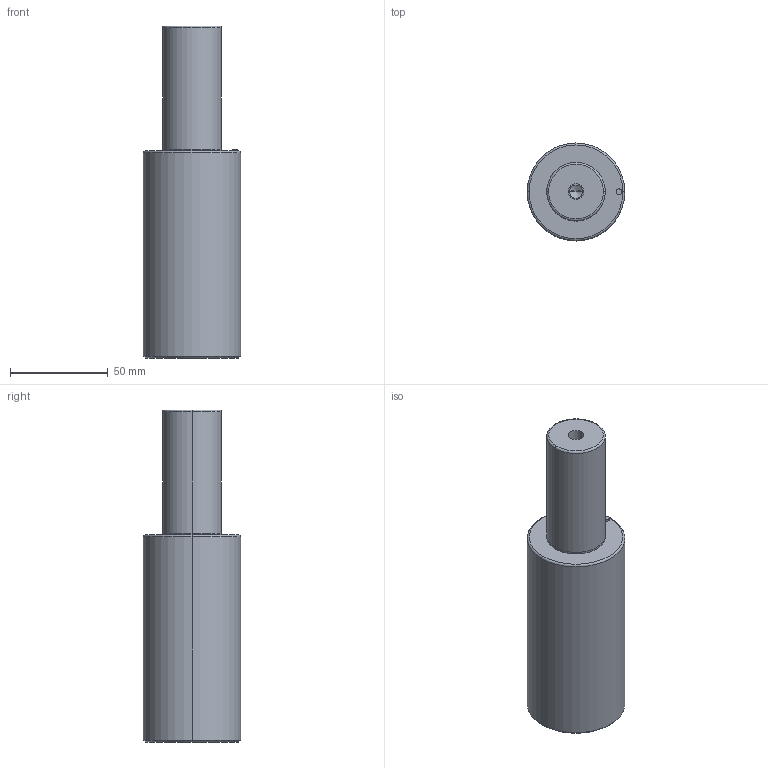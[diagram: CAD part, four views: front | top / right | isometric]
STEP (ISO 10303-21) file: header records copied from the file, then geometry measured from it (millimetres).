
FILE_DESCRIPTION(/* description */ (''),/* implementation_level */ '2;1');
FILE_NAME(/* name */ '3d_gsc50-63_03837_r00.stp',/* time_stamp */ '2011-01-10T14:15:21+09:00',/* author */ ('MISUMI'),/* organization */ (''),/* preprocessor_version */ 'ST-DEVELOPER v11',/* originating_system */ 'UGS - NX 5.0',/* authorisation */ '');
FILE_SCHEMA (('CONFIG_CONTROL_DESIGN'));
Length unit declared in the file: millimetre
Products named in the file (1): 3d_gsc50-63_03837_r00
Bounding box: 50 x 50 x 170 mm (x, y, z)
Volume: 251257.6 mm3; surface area: 27301.9 mm2
Topology: 1 solids, 1 shells, 32 faces, 66 edges, 38 vertices
Faces by surface type: cylinder 16, cone 6, plane 6, torus 4
Entity records: 912 total; most frequent: DIRECTION 168, CARTESIAN_POINT 133, ORIENTED_EDGE 124, AXIS2_PLACEMENT_3D 73, EDGE_CURVE 62, CIRCLE 40, EDGE_LOOP 38, VERTEX_POINT 38
